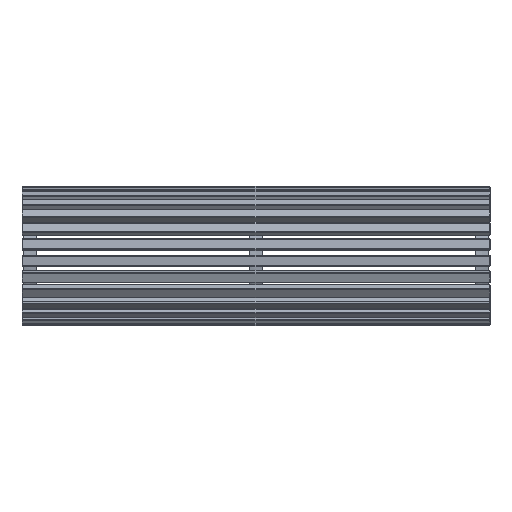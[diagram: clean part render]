
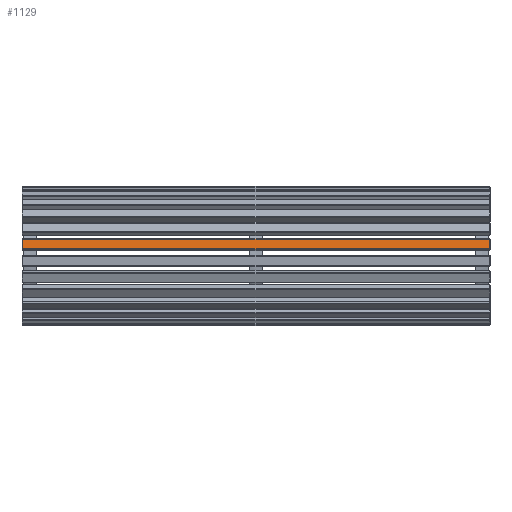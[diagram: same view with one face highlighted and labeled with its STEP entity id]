
A CAD part, top view. The second image highlights one B-rep face of the part: STEP entity #1129.
In plain terms, the highlighted planar face has unit normal (0, 0.16, 0.987).
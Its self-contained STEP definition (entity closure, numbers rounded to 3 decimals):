
#1129=ADVANCED_FACE('',(#2031),#12435,.T.);
#2031=FACE_OUTER_BOUND('',#2985,.T.);
#2985=EDGE_LOOP('',(#5323,#5324,#5325,#5326));
#5323=ORIENTED_EDGE('',*,*,#8309,.F.);
#5324=ORIENTED_EDGE('',*,*,#8310,.F.);
#5325=ORIENTED_EDGE('',*,*,#8312,.F.);
#5326=ORIENTED_EDGE('',*,*,#8311,.F.);
#8309=EDGE_CURVE('',#11778,#11777,#10603,.T.);
#8310=EDGE_CURVE('',#11776,#11778,#10604,.T.);
#8311=EDGE_CURVE('',#11777,#11775,#10605,.T.);
#8312=EDGE_CURVE('',#11775,#11776,#10606,.T.);
#10603=(
BOUNDED_CURVE()
B_SPLINE_CURVE(1,(#22373,#22374),.UNSPECIFIED.,.F.,.F.)
B_SPLINE_CURVE_WITH_KNOTS((2,2),(-144.,47.333),.UNSPECIFIED.)
CURVE()
GEOMETRIC_REPRESENTATION_ITEM()
RATIONAL_B_SPLINE_CURVE((1.,1.))
REPRESENTATION_ITEM('')
);
#10604=(
BOUNDED_CURVE()
B_SPLINE_CURVE(1,(#22375,#22376),.UNSPECIFIED.,.F.,.F.)
B_SPLINE_CURVE_WITH_KNOTS((2,2),(-9.5,2.5),
 .UNSPECIFIED.)
CURVE()
GEOMETRIC_REPRESENTATION_ITEM()
RATIONAL_B_SPLINE_CURVE((1.,1.))
REPRESENTATION_ITEM('')
);
#10605=(
BOUNDED_CURVE()
B_SPLINE_CURVE(1,(#22377,#22378),.UNSPECIFIED.,.F.,.F.)
B_SPLINE_CURVE_WITH_KNOTS((2,2),(-9.5,2.5),
 .UNSPECIFIED.)
CURVE()
GEOMETRIC_REPRESENTATION_ITEM()
RATIONAL_B_SPLINE_CURVE((1.,1.))
REPRESENTATION_ITEM('')
);
#10606=(
BOUNDED_CURVE()
B_SPLINE_CURVE(1,(#22379,#22380),.UNSPECIFIED.,.F.,.F.)
B_SPLINE_CURVE_WITH_KNOTS((2,2),(-144.,47.333),.UNSPECIFIED.)
CURVE()
GEOMETRIC_REPRESENTATION_ITEM()
RATIONAL_B_SPLINE_CURVE((1.,1.))
REPRESENTATION_ITEM('')
);
#11775=VERTEX_POINT('',#22341);
#11776=VERTEX_POINT('',#22342);
#11777=VERTEX_POINT('',#22343);
#11778=VERTEX_POINT('',#22344);
#12435=PLANE('',#13151);
#13151=AXIS2_PLACEMENT_3D('',#22179,#13276,$);
#13276=DIRECTION('',(0.,0.16,0.987));
#22179=CARTESIAN_POINT('',(1747.03,286.956,628.096));
#22341=CARTESIAN_POINT('',(1747.,286.966,628.094));
#22342=CARTESIAN_POINT('',(3.,286.966,628.094));
#22343=CARTESIAN_POINT('',(1747.,321.463,622.519));
#22344=CARTESIAN_POINT('',(3.,321.463,622.519));
#22373=CARTESIAN_POINT('',(3.,321.463,622.519));
#22374=CARTESIAN_POINT('',(1747.,321.463,622.519));
#22375=CARTESIAN_POINT('',(3.,286.966,628.094));
#22376=CARTESIAN_POINT('',(3.,321.463,622.519));
#22377=CARTESIAN_POINT('',(1747.,321.463,622.519));
#22378=CARTESIAN_POINT('',(1747.,286.966,628.094));
#22379=CARTESIAN_POINT('',(1747.,286.966,628.094));
#22380=CARTESIAN_POINT('',(3.,286.966,628.094));
